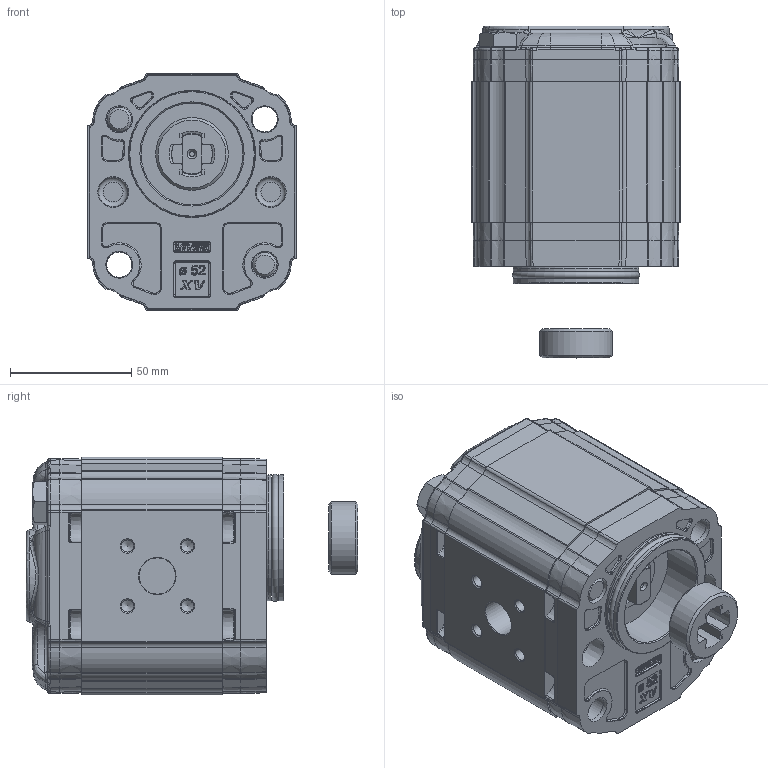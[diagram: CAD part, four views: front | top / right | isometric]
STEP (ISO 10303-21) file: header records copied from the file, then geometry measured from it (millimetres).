
FILE_DESCRIPTION(/* description */ ('Unknown'),/* implementation_level */ '2;1');
FILE_NAME(/* name */ 'X2M4719CRRF',/* time_stamp */ '2026-06-03T18:36:26+02:00',/* author */ ('Unknown'),/* organization */ ('Unknown'),/* preprocessor_version */ 'ST-DEVELOPER v16.7',/* originating_system */ 'Solid Edge',/* authorisation */ 'Unknown');
FILE_SCHEMA (('TECHNICAL_DATA_PACKAGING','AUTOMOTIVE_DESIGN {1 0 10303 214 3 1 1}'));
Products named in the file (5): X2M4719CRRF; X2M19; 2C; X2RRH58; XM216-F
Assembly tree (4 placements, depth 2):
  X2M4719CRRF
    X2M19
    2C
    X2RRH58
    XM216-F
Bounding box: 86 x 137 x 98 mm (x, y, z)
Volume: 677638.4 mm3; surface area: 103725.7 mm2
Topology: 5 solids, 9 shells, 2492 faces, 6084 edges, 3673 vertices
Faces by surface type: cylinder 711, plane 634, bspline 612, cone 272, torus 203, sphere 60
Full cylindrical faces by diameter (mm): 2 x1, 5 x8, 10 x6, 10.5 x8, 11 x2, 15 x2, 16 x2, 16.8 x1, 17.42 x1, 23 x1, 25 x1, 30 x1, 42 x1, 47.8 x2, 52 x2
Entity records: 116295 total; most frequent: CARTESIAN_POINT 46160, ORIENTED_EDGE 11706, DIRECTION 9637, EDGE_CURVE 5853, AXIS2_PLACEMENT_3D 3768, VERTEX_POINT 3619, FACE_BOUND 2752, EDGE_LOOP 2743
